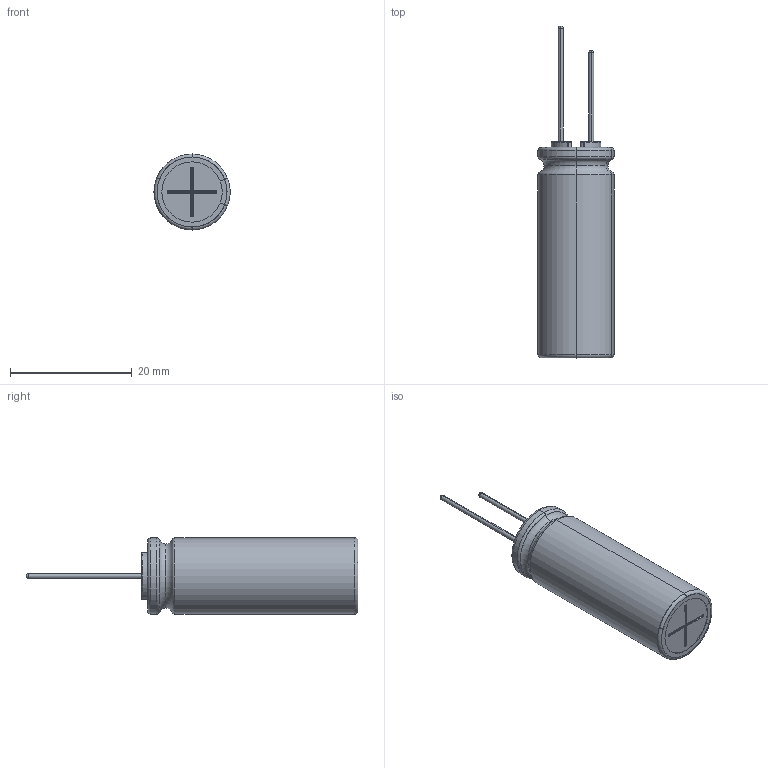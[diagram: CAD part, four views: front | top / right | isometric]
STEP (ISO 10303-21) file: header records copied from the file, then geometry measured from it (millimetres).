
FILE_DESCRIPTION(('STEP AP214'),'1');
FILE_NAME('12.5x35_Lead_A.stp','2018-07-25T02:46:27',(' '),(' '),'Spatial InterOp 3D',' ',' ');
FILE_SCHEMA(('AUTOMOTIVE_DESIGN { 1 0 10303 214 1 1 1 1 }'));
Length unit declared in the file: metre
Products named in the file (4): 12.5x35_Lead_A; Component1; Component2; Component3
Assembly tree (3 placements, depth 2):
  12.5x35_Lead_A
    Component1
    Component2
    Component3
Bounding box: 12.48 x 54.5 x 12.5 mm (x, y, z)
Volume: 4201.1 mm3; surface area: 4593.1 mm2
Topology: 3 solids, 3 shells, 192 faces, 465 edges, 280 vertices
Faces by surface type: torus 73, cylinder 70, plane 33, sphere 8, bspline 6, extrusion 2
Entity records: 7994 total; most frequent: CARTESIAN_POINT 1653, DIRECTION 1148, ORIENTED_EDGE 922, AXIS2_PLACEMENT_3D 499, EDGE_CURVE 461, CIRCLE 299, VERTEX_POINT 280, EDGE_LOOP 197
